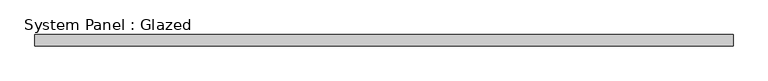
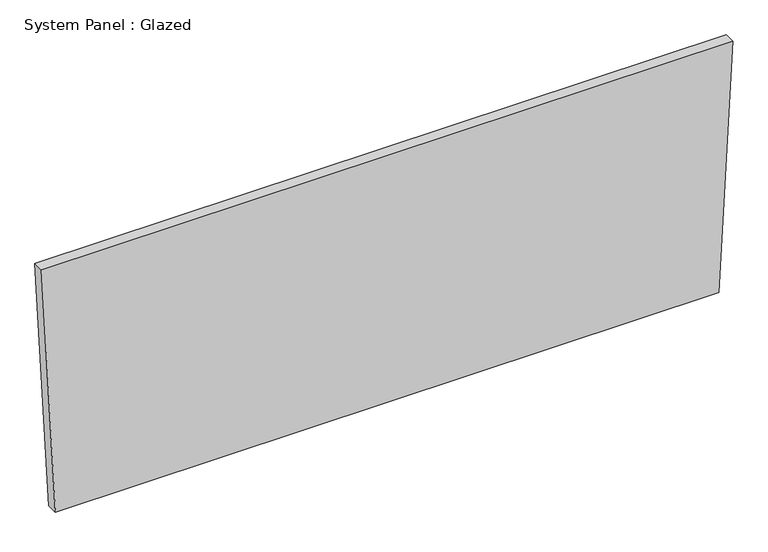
"""IFC4 building model written with IfcOpenShell, lengths in millimetres: plate geometry, System Panel : Glazed."""

from ifc_helpers import new_model, si_unit, frame, origin, place, context, project, spatial, polyline, outline, extrude, source, transform, mapped, element, save


def system_panel_glazed_17b066a7(model_context):
    return source(origin(), model_context, "Body", "SweptSolid", [
        extrude(outline(polyline([(0.0, -741.926752), (0.0, 741.926752), (583.3481362, 772.7984812), (583.3481362, -772.7984812), (0.0, -741.926752)])), frame((0.0, -44.45, 0.0), z_axis=(0.0, 1.0, 0.0), x_axis=(0.0, 0.0, 1.0)), (0.0, 0.0, 1.0), 25.4),
    ])


if __name__ == "__main__":
    model = new_model("IFC4")
    model_context = context("Model", 3, world=origin())
    ifc_project = project(units=[si_unit("LENGTHUNIT", "METRE", prefix="MILLI")], contexts=[model_context])
    site = spatial("IfcSite", under=ifc_project)
    building = spatial("IfcBuilding", under=site)
    placement = place(None, origin())
    system_panel_glazed_shape = system_panel_glazed_17b066a7(model_context)
    element("IfcPlate", 1, ObjectType="System Panel : Glazed", at=placement, inside=building, context=model_context, shape_type="MappedRepresentation", body=[
        mapped(system_panel_glazed_shape, transform((0.0, 0.0, 0.0), x_axis=(1.0, 0.0, 0.0), y_axis=(0.0, 1.0, 0.0), z_axis=(0.0, 0.0, 1.0))),
    ])
    save(model, "model.ifc")
